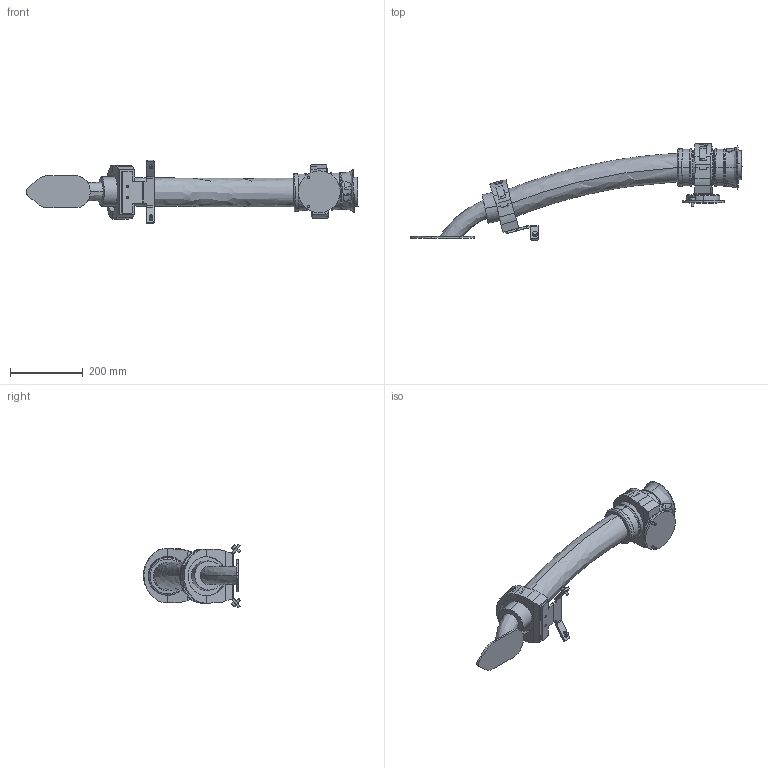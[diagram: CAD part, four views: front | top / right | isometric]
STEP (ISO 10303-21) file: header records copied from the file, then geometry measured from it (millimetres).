
FILE_DESCRIPTION (( 'STEP AP214' ), '1' );
FILE_NAME ('IRB6720-LID_215kg-250_OC_00_LINK04_CABLE.step', '2026-05-26T07:18:42', ( '' ), ( '' ), 'SwSTEP 2.0', 'SolidWorks 2024', '' );
FILE_SCHEMA (( 'AUTOMOTIVE_DESIGN' ));
Length unit declared in the file: millimetre
Products named in the file (1): IRB6720-LID_215kg-250_OC_00_LINK04_CABLE
Bounding box: 910.23 x 265.93 x 174.65 mm (x, y, z)
Volume: 5341089 mm3; surface area: 405427.9 mm2
Topology: 1 solids, 1 shells, 425 faces, 1058 edges, 672 vertices
Faces by surface type: plane 223, cylinder 134, bspline 25, cone 22, torus 17, sphere 4
Entity records: 17951 total; most frequent: CARTESIAN_POINT 7617, ORIENTED_EDGE 2116, DIRECTION 2050, EDGE_CURVE 1058, AXIS2_PLACEMENT_3D 759, VERTEX_POINT 672, LINE 532, VECTOR 532
